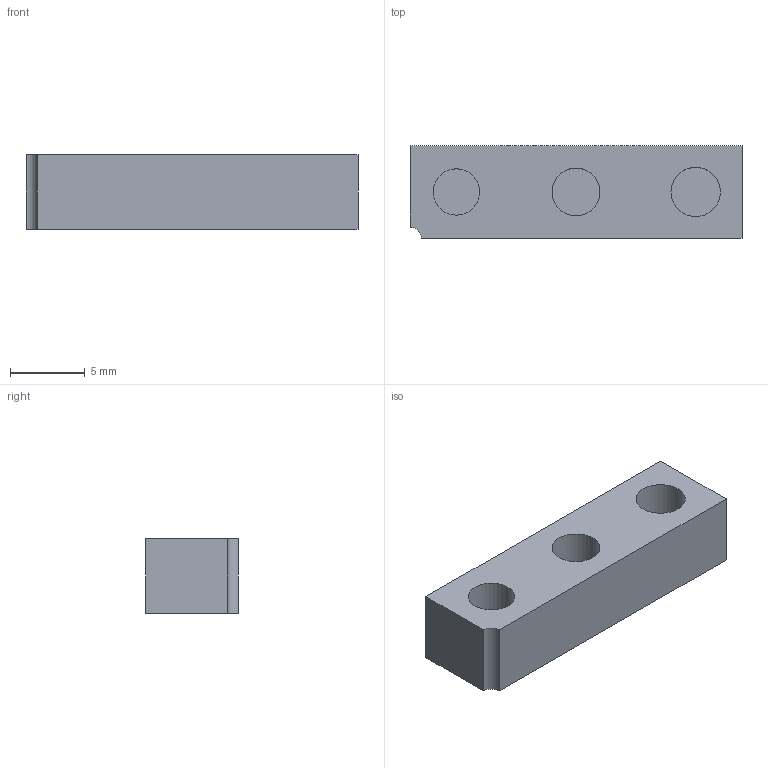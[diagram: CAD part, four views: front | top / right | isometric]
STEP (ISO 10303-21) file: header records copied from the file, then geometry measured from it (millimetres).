
FILE_DESCRIPTION(('Open CASCADE Model'),'2;1');
FILE_NAME('Open CASCADE Shape Model','2026-11-25T01:59:36',('Author'),( 'Open CASCADE'),'Open CASCADE STEP processor 7.9','Open CASCADE 7.9' ,'Unknown');
FILE_SCHEMA(('AUTOMOTIVE_DESIGN { 1 0 10303 214 1 1 1 1 }'));
Length unit declared in the file: millimetre
Products named in the file (1): Open CASCADE STEP translator 7.9 9
Bounding box: 22.2 x 6.2 x 5 mm (x, y, z)
Volume: 587 mm3; surface area: 680.4 mm2
Topology: 1 solids, 1 shells, 13 faces, 24 edges, 16 vertices
Faces by surface type: plane 9, cylinder 4
Full cylindrical faces by diameter (mm): 3.1 x1, 3.2 x1, 3.3 x1
Entity records: 661 total; most frequent: CARTESIAN_POINT 134, DIRECTION 101, LINE 54, VECTOR 54, ORIENTED_EDGE 48, PCURVE 48, DEFINITIONAL_REPRESENTATION 48, EDGE_CURVE 24
